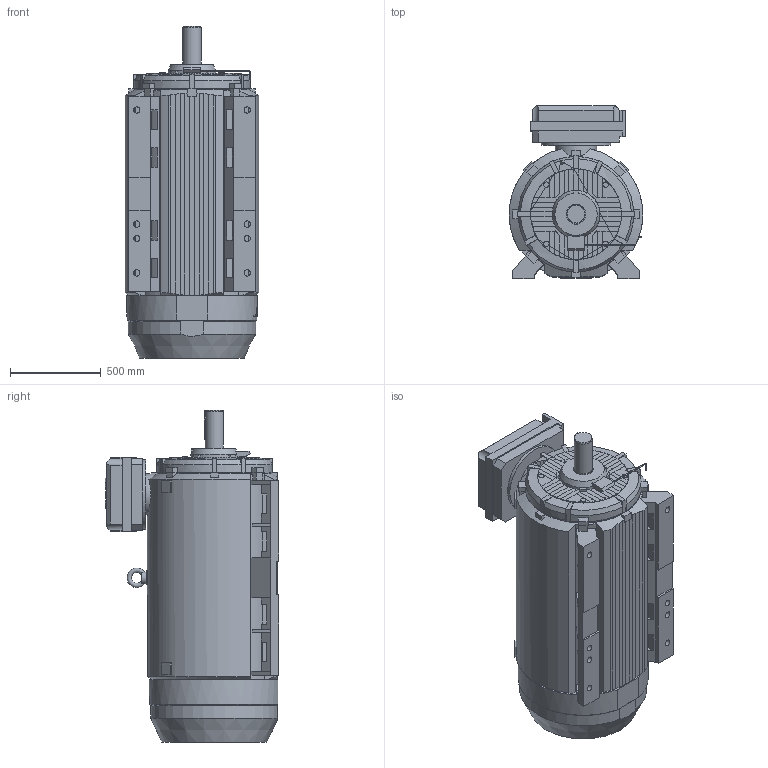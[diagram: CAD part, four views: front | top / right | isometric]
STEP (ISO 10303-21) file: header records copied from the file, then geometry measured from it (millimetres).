
FILE_DESCRIPTION((''),'2;1');
FILE_NAME('C:\Users\Udo.Huebner\Downloads\3GZF500035-44_IGES.stp','2011-05-15T14:36:16',('Udo.Huebner'),(''),'Autodesk Inventor 2011','Autodesk Inventor 2011','');
FILE_SCHEMA(('CONFIG_CONTROL_DESIGN'));
Length unit declared in the file: millimetre
Products named in the file (1): 3GZF500035-44_IGES
Bounding box: 739.34 x 958 x 1834 mm (x, y, z)
Volume: 688539316.3 mm3; surface area: 6286961.4 mm2
Topology: 1 solids, 1 shells, 455 faces, 1299 edges, 859 vertices
Faces by surface type: plane 355, cylinder 62, cone 25, torus 9, bspline 4
Full cylindrical faces by diameter (mm): 30 x4, 35 x8, 65 x1, 100 x1, 110 x1, 229 x1, 264 x1, 386 x1, 502 x1
Entity records: 14949 total; most frequent: CARTESIAN_POINT 3156, ORIENTED_EDGE 2524, DIRECTION 2366, EDGE_CURVE 1262, VERTEX_POINT 844, VECTOR 824, LINE 824, AXIS2_PLACEMENT_3D 771
